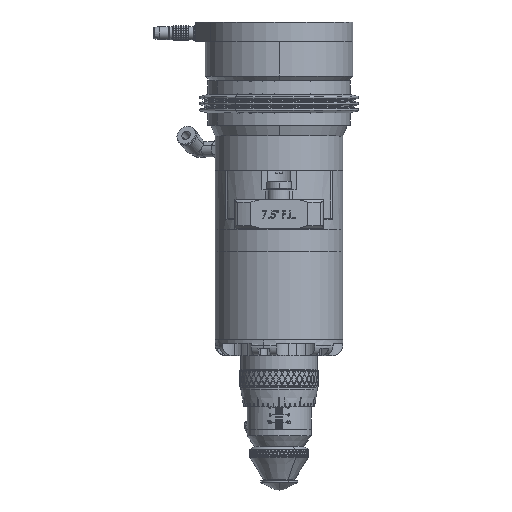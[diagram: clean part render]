
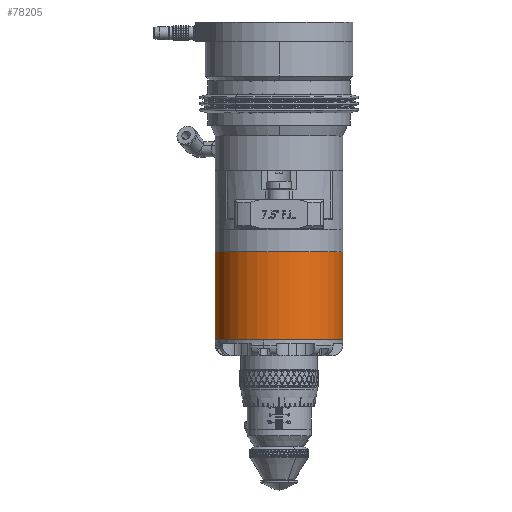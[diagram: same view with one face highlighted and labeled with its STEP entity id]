
A CAD part, top view. The second image highlights one B-rep face of the part: STEP entity #78205.
In plain terms, the highlighted cylindrical face has radius 41.275 mm (diameter 82.55 mm), a partial arc.
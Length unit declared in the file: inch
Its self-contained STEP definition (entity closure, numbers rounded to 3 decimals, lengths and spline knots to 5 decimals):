
#1531 = AXIS2_PLACEMENT_3D ( 'NONE', #8003, #132014, #117551 ) ;
#2409 = CARTESIAN_POINT ( 'NONE',  ( 1.625, -2.95, 0. ) ) ;
#8003 = CARTESIAN_POINT ( 'NONE',  ( 0., -2.95, 0. ) ) ;
#8475 = CARTESIAN_POINT ( 'NONE',  ( 0., -2.95, 0. ) ) ;
#17498 = CARTESIAN_POINT ( 'NONE',  ( 1.625, -2.95, 0. ) ) ;
#23255 = ORIENTED_EDGE ( 'NONE', *, *, #76753, .T. ) ;
#31907 = EDGE_CURVE ( 'NONE', #45839, #123359, #87195, .T. ) ;
#40864 = DIRECTION ( 'NONE',  ( 0., -1., 0. ) ) ;
#45839 = VERTEX_POINT ( 'NONE', #17498 ) ;
#48601 = DIRECTION ( 'NONE',  ( 0., 1., 0. ) ) ;
#50820 = VERTEX_POINT ( 'NONE', #115636 ) ;
#51181 = CIRCLE ( 'NONE', #171105, 1.625 ) ;
#56083 = AXIS2_PLACEMENT_3D ( 'NONE', #70588, #71765, #126306 ) ;
#65517 = ORIENTED_EDGE ( 'NONE', *, *, #150692, .F. ) ;
#70588 = CARTESIAN_POINT ( 'NONE',  ( 0., -5.173, 0. ) ) ;
#71765 = DIRECTION ( 'NONE',  ( 0., 1., 0. ) ) ;
#71885 = VECTOR ( 'NONE', #151011, 39.37008 ) ;
#76174 = CARTESIAN_POINT ( 'NONE',  ( 1.625, -5.173, 0. ) ) ;
#76753 = EDGE_CURVE ( 'NONE', #97990, #50820, #119119, .T. ) ;
#78205 = ADVANCED_FACE ( 'Defeatured_63_2', ( #115235 ), #104422, .T. ) ;
#87195 = LINE ( 'NONE', #2409, #158099 ) ;
#97990 = VERTEX_POINT ( 'NONE', #101235 ) ;
#98458 = CIRCLE ( 'NONE', #56083, 1.625 ) ;
#101235 = CARTESIAN_POINT ( 'NONE',  ( -1.625, -2.95, 0. ) ) ;
#104422 = CYLINDRICAL_SURFACE ( 'NONE', #1531, 1.625 ) ;
#105878 = ORIENTED_EDGE ( 'NONE', *, *, #31907, .F. ) ;
#114212 = EDGE_CURVE ( 'Defeatured_63_2+Defeatured_63_1+Defeatured_63_1+Defeatured_63_1', #50820, #123359, #98458, .T. ) ;
#115235 = FACE_OUTER_BOUND ( 'NONE', #147849, .T. ) ;
#115636 = CARTESIAN_POINT ( 'NONE',  ( -1.625, -5.173, 0. ) ) ;
#117551 = DIRECTION ( 'NONE',  ( 1., 0., 0. ) ) ;
#119119 = LINE ( 'NONE', #122875, #71885 ) ;
#122875 = CARTESIAN_POINT ( 'NONE',  ( -1.625, -2.95, 0. ) ) ;
#123359 = VERTEX_POINT ( 'NONE', #76174 ) ;
#126306 = DIRECTION ( 'NONE',  ( -1., 0., 0. ) ) ;
#132014 = DIRECTION ( 'NONE',  ( 0., -1., 0. ) ) ;
#140924 = ORIENTED_EDGE ( 'NONE', *, *, #114212, .T. ) ;
#147849 = EDGE_LOOP ( 'NONE', ( #65517, #23255, #140924, #105878 ) ) ;
#150692 = EDGE_CURVE ( 'Defeatured_63_0+Defeatured_63_2+Defeatured_63_2+Defeatured_63_2', #97990, #45839, #51181, .T. ) ;
#151011 = DIRECTION ( 'NONE',  ( 0., -1., 0. ) ) ;
#157660 = DIRECTION ( 'NONE',  ( -1., 0., 0. ) ) ;
#158099 = VECTOR ( 'NONE', #40864, 39.37008 ) ;
#171105 = AXIS2_PLACEMENT_3D ( 'NONE', #8475, #48601, #157660 ) ;
